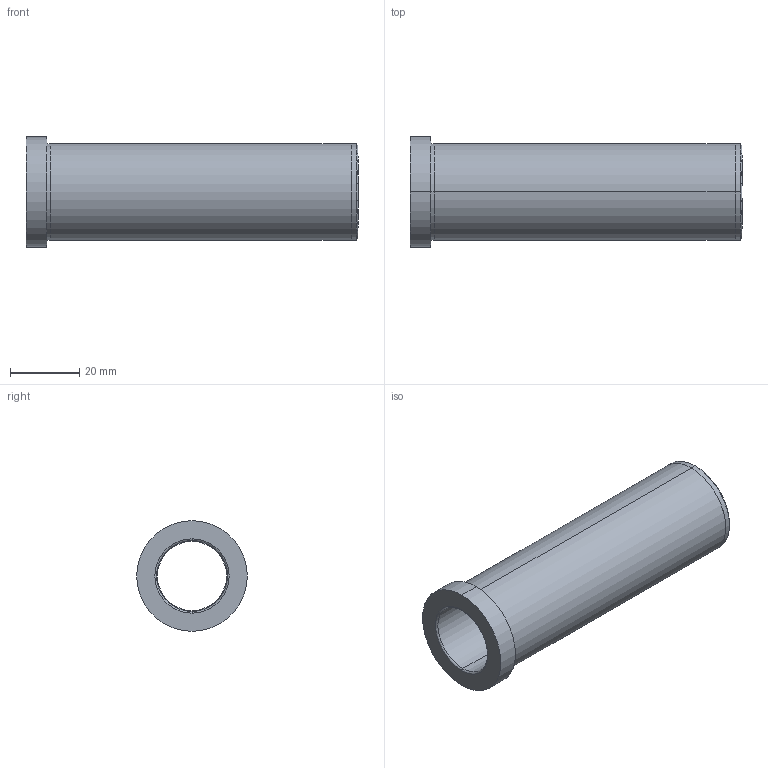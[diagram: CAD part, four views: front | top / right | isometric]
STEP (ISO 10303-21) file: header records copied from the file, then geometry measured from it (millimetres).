
FILE_DESCRIPTION( ( 'STEP AP203' ), '1' );
FILE_NAME( 'C:/Projects/D20 - 20x96.step', '2002-12-31T23:49:00', ( ' ' ), ( ' ' ), 'XStep 1.0', ' ', ' ' );
FILE_SCHEMA( ( 'CONFIG_CONTROL_DESIGN' ) );
Length unit declared in the file: metre
Products named in the file (1): 1
Bounding box: 96 x 32 x 32 mm (x, y, z)
Volume: 29570.1 mm3; surface area: 15542.6 mm2
Topology: 1 solids, 1 shells, 24 faces, 48 edges, 30 vertices
Faces by surface type: revolution 14, bspline 10
Entity records: 755 total; most frequent: CARTESIAN_POINT 221, ORIENTED_EDGE 96, DIRECTION 90, EDGE_CURVE 48, AXIS2_PLACEMENT_3D 31, EDGE_LOOP 30, VERTEX_POINT 30, CIRCLE 30
